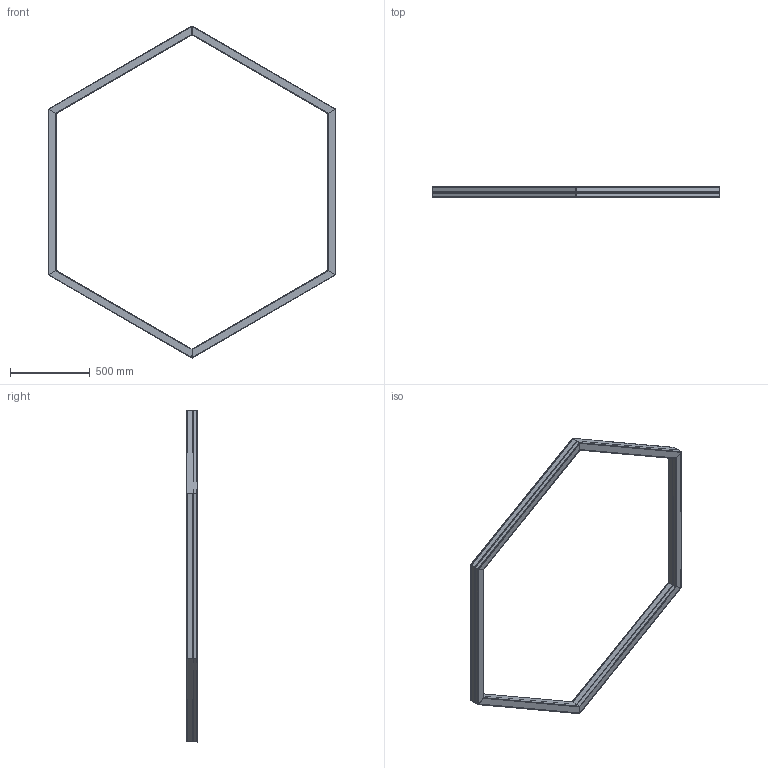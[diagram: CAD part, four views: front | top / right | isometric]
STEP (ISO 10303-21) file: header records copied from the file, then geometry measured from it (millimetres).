
FILE_DESCRIPTION(('STEP AP203'), '1');
FILE_NAME('Ìèêêî Ðèá 120Âò', '', ('UNSPECIFIED'), ('UNSPECIFIED'), 'ASCON STEP Converter 1.6', 'ASCON Math Kernel', '');
FILE_SCHEMA(('CONFIG_CONTROL_DESIGN'));
Length unit declared in the file: millimetre
Assembly tree (6 placements, depth 2):
  (unnamed)
    (unnamed)
    (unnamed)  x5
Bounding box: 1804.8 x 70 x 2084 mm (x, y, z)
Volume: 2635791.2 mm3; surface area: 4039938.5 mm2
Topology: 13 solids, 13 shells, 1202 faces, 3523 edges, 2349 vertices
Faces by surface type: cylinder 692, plane 508, torus 2
Full cylindrical faces by diameter (mm): 8 x1, 10 x2, 14 x2
Entity records: 13797 total; most frequent: CARTESIAN_POINT 3870, ORIENTED_EDGE 2376, DIRECTION 1574, EDGE_CURVE 1188, VERTEX_POINT 796, LINE 712, VECTOR 712, AXIS2_PLACEMENT_3D 431
